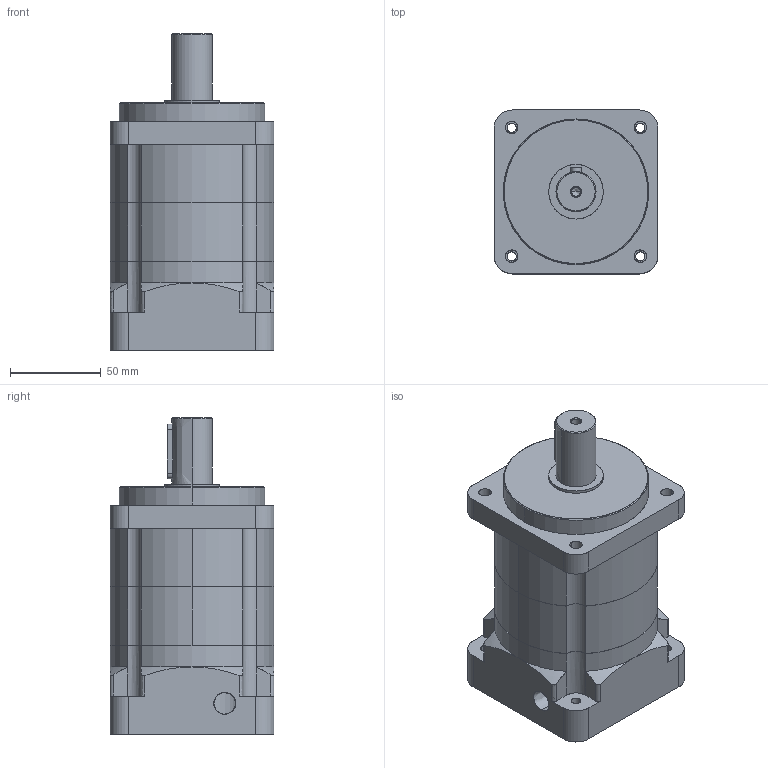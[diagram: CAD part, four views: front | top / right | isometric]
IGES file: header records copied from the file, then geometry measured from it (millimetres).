
Start section: SolidWorks IGES file using analytic representation for surfaces
Global section: file name: C:\Users\render\Documents\CAD Files\S-Gearboxes\SL-090-025\SL-090-025.IGS; native system: SolidWorks 2009; preprocessor: SolidWorks 2009; author: render; date: 100519.120404; units: millimetre
Bounding box: 90 x 90 x 174 mm (x, y, z)
Surface area: 128945.5 mm2 (no closed solid volume)
Topology: 0 solids, 0 shells, 145 faces, 3154 edges, 3152 vertices
Faces by surface type: revolution 101, bspline 44
